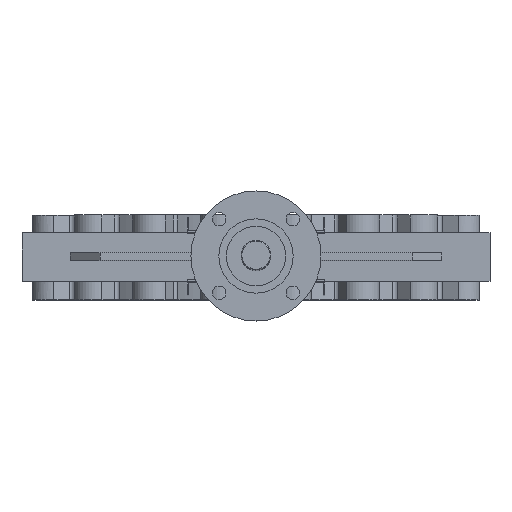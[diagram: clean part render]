
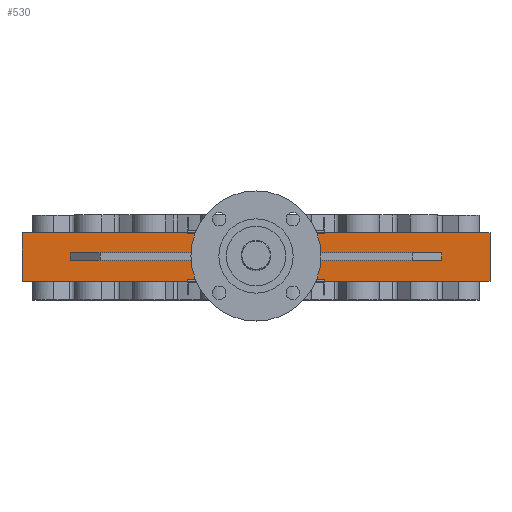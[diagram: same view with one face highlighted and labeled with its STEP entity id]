
A CAD part, top view. The second image highlights one B-rep face of the part: STEP entity #530.
In plain terms, the highlighted planar face has unit normal (0, 0, 1).
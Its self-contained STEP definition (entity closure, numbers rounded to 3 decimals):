
#530=ADVANCED_FACE('',(#3290,#3292),#3294,.T.);
#3290=FACE_BOUND('',#3291,.T.);
#3291=EDGE_LOOP('',(#5603,#5604,#5605,#5606,#5607,#5608,#5609,#5610,#5611,#5612,
#5613,#5614));
#3292=FACE_BOUND('',#3293,.T.);
#3293=EDGE_LOOP('',(#5615,#5616,#5617,#5618));
#3294=PLANE('',#3295);
#3295=AXIS2_PLACEMENT_3D('',#3296,#3297,#3298);
#3296=CARTESIAN_POINT('',(-315.,-32.5,415.));
#3297=DIRECTION('',(0.,0.,1.));
#3298=DIRECTION('',(1.,0.,0.));
#5603=ORIENTED_EDGE('',*,*,#7084,.T.);
#5604=ORIENTED_EDGE('',*,*,#7117,.T.);
#5605=ORIENTED_EDGE('',*,*,#7116,.T.);
#5606=ORIENTED_EDGE('',*,*,#7114,.T.);
#5607=ORIENTED_EDGE('',*,*,#7111,.F.);
#5608=ORIENTED_EDGE('',*,*,#7109,.T.);
#5609=ORIENTED_EDGE('',*,*,#7077,.T.);
#5610=ORIENTED_EDGE('',*,*,#7104,.T.);
#5611=ORIENTED_EDGE('',*,*,#7103,.F.);
#5612=ORIENTED_EDGE('',*,*,#7100,.F.);
#5613=ORIENTED_EDGE('',*,*,#7098,.T.);
#5614=ORIENTED_EDGE('',*,*,#7095,.T.);
#5615=ORIENTED_EDGE('',*,*,#7127,.T.);
#5616=ORIENTED_EDGE('',*,*,#7128,.T.);
#5617=ORIENTED_EDGE('',*,*,#7129,.T.);
#5618=ORIENTED_EDGE('',*,*,#7130,.T.);
#7077=EDGE_CURVE('',#7990,#7991,#7992,.T.);
#7084=EDGE_CURVE('',#8001,#8002,#8003,.F.);
#7095=EDGE_CURVE('',#8021,#8001,#8022,.F.);
#7098=EDGE_CURVE('',#8025,#8021,#8026,.T.);
#7100=EDGE_CURVE('',#8025,#8028,#8029,.T.);
#7103=EDGE_CURVE('',#8028,#8031,#8033,.T.);
#7104=EDGE_CURVE('',#7991,#8031,#8034,.T.);
#7109=EDGE_CURVE('',#8039,#7990,#8040,.T.);
#7111=EDGE_CURVE('',#8039,#8042,#8043,.T.);
#7114=EDGE_CURVE('',#8045,#8042,#8047,.T.);
#7116=EDGE_CURVE('',#8048,#8045,#8050,.T.);
#7117=EDGE_CURVE('',#8002,#8048,#8051,.F.);
#7127=EDGE_CURVE('',#8065,#8066,#8067,.F.);
#7128=EDGE_CURVE('',#8066,#8068,#8069,.T.);
#7129=EDGE_CURVE('',#8068,#8070,#8071,.T.);
#7130=EDGE_CURVE('',#8070,#8065,#8072,.F.);
#7990=VERTEX_POINT('',#9638);
#7991=VERTEX_POINT('',#9639);
#7992=LINE('',#9640,#9641);
#8001=VERTEX_POINT('',#9664);
#8002=VERTEX_POINT('',#9665);
#8003=LINE('',#9666,#9667);
#8021=VERTEX_POINT('',#9711);
#8022=LINE('',#9712,#9713);
#8025=VERTEX_POINT('',#9721);
#8026=LINE('',#9722,#9723);
#8028=VERTEX_POINT('',#9728);
#8029=LINE('',#9729,#9730);
#8031=VERTEX_POINT('',#9735);
#8033=LINE('',#9739,#9740);
#8034=LINE('',#9742,#9743);
#8039=VERTEX_POINT('',#9757);
#8040=LINE('',#9758,#9759);
#8042=VERTEX_POINT('',#9764);
#8043=LINE('',#9765,#9766);
#8045=VERTEX_POINT('',#9771);
#8047=LINE('',#9775,#9776);
#8048=VERTEX_POINT('',#9778);
#8050=LINE('',#9782,#9783);
#8051=LINE('',#9785,#9786);
#8065=VERTEX_POINT('',#9819);
#8066=VERTEX_POINT('',#9820);
#8067=LINE('',#9821,#9822);
#8068=VERTEX_POINT('',#9824);
#8069=LINE('',#9825,#9826);
#8070=VERTEX_POINT('',#9828);
#8071=LINE('',#9829,#9830);
#8072=LINE('',#9832,#9833);
#9638=CARTESIAN_POINT('',(92.5,32.,415.));
#9639=CARTESIAN_POINT('',(-92.5,32.,415.));
#9640=CARTESIAN_POINT('',(92.5,32.,415.));
#9641=VECTOR('',#9642,1.);
#9642=DIRECTION('',(-1.,0.,0.));
#9664=CARTESIAN_POINT('',(-92.5,-32.,415.));
#9665=CARTESIAN_POINT('',(92.5,-32.,415.));
#9666=CARTESIAN_POINT('',(92.5,-32.,415.));
#9667=VECTOR('',#9668,1.);
#9668=DIRECTION('',(-1.,0.,0.));
#9711=CARTESIAN_POINT('',(-92.5,-32.5,415.));
#9712=CARTESIAN_POINT('',(-92.5,-32.,415.));
#9713=VECTOR('',#9714,1.);
#9714=DIRECTION('',(0.,-1.,0.));
#9721=CARTESIAN_POINT('',(-315.,-32.5,415.));
#9722=CARTESIAN_POINT('',(-315.,-32.5,415.));
#9723=VECTOR('',#9724,1.);
#9724=DIRECTION('',(1.,0.,0.));
#9728=CARTESIAN_POINT('',(-315.,32.5,415.));
#9729=CARTESIAN_POINT('',(-315.,-32.5,415.));
#9730=VECTOR('',#9731,1.);
#9731=DIRECTION('',(0.,1.,0.));
#9735=CARTESIAN_POINT('',(-92.5,32.5,415.));
#9739=CARTESIAN_POINT('',(-315.,32.5,415.));
#9740=VECTOR('',#9741,1.);
#9741=DIRECTION('',(1.,0.,0.));
#9742=CARTESIAN_POINT('',(-92.5,32.,415.));
#9743=VECTOR('',#9744,1.);
#9744=DIRECTION('',(0.,1.,0.));
#9757=CARTESIAN_POINT('',(92.5,32.5,415.));
#9758=CARTESIAN_POINT('',(92.5,32.5,415.));
#9759=VECTOR('',#9760,1.);
#9760=DIRECTION('',(0.,-1.,0.));
#9764=CARTESIAN_POINT('',(315.,32.5,415.));
#9765=CARTESIAN_POINT('',(92.5,32.5,415.));
#9766=VECTOR('',#9767,1.);
#9767=DIRECTION('',(1.,0.,0.));
#9771=CARTESIAN_POINT('',(315.,-32.5,415.));
#9775=CARTESIAN_POINT('',(315.,-32.5,415.));
#9776=VECTOR('',#9777,1.);
#9777=DIRECTION('',(0.,1.,0.));
#9778=CARTESIAN_POINT('',(92.5,-32.5,415.));
#9782=CARTESIAN_POINT('',(92.5,-32.5,415.));
#9783=VECTOR('',#9784,1.);
#9784=DIRECTION('',(1.,0.,0.));
#9785=CARTESIAN_POINT('',(92.5,-32.5,415.));
#9786=VECTOR('',#9787,1.);
#9787=DIRECTION('',(0.,1.,0.));
#9819=CARTESIAN_POINT('',(-235.106,5.,415.));
#9820=CARTESIAN_POINT('',(235.106,5.,415.));
#9821=CARTESIAN_POINT('',(235.106,5.,415.));
#9822=VECTOR('',#9823,1.);
#9823=DIRECTION('',(-1.,0.,0.));
#9824=CARTESIAN_POINT('',(235.106,-5.,415.));
#9825=CARTESIAN_POINT('',(235.106,5.,415.));
#9826=VECTOR('',#9827,1.);
#9827=DIRECTION('',(0.,-1.,0.));
#9828=CARTESIAN_POINT('',(-235.106,-5.,415.));
#9829=CARTESIAN_POINT('',(235.106,-5.,415.));
#9830=VECTOR('',#9831,1.);
#9831=DIRECTION('',(-1.,0.,0.));
#9832=CARTESIAN_POINT('',(-235.106,5.,415.));
#9833=VECTOR('',#9834,1.);
#9834=DIRECTION('',(0.,-1.,0.));
